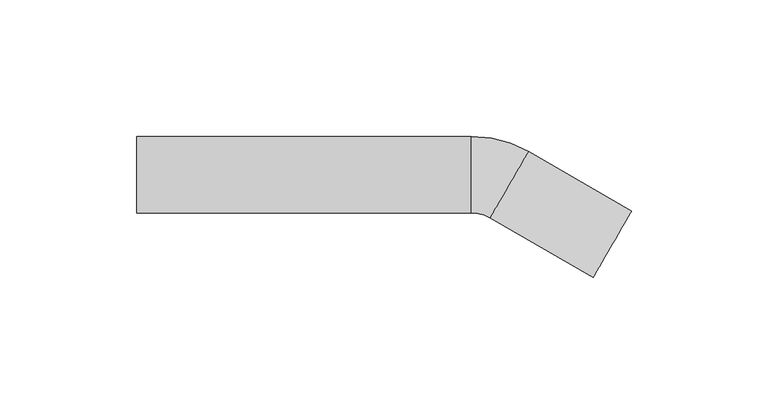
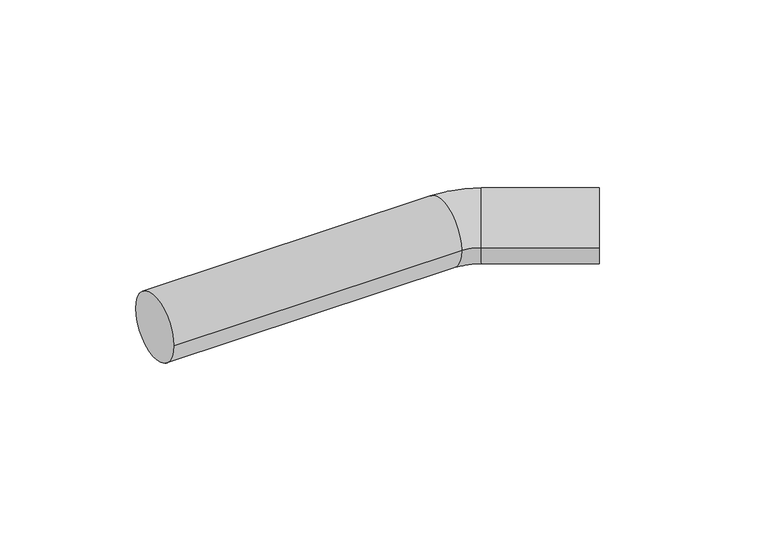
"""IFC4 building model written with IfcOpenShell, lengths in millimetres: pipe fitting geometry, KAN-therm Inox łuk 30 : KAN-therm Inox łuk 30."""

from ifc_helpers import new_model, si_unit, point, frame, origin, place, context, project, spatial, circle_curve, ellipse_curve, trimmed, source, transform, mapped, element, save
from ifc_brep_helpers import plane_surface, cylinder_surface, revolved_surface, advanced_brep


def pipe_fitting_d68aeb2b(model_context):
    return source(origin(), model_context, "Body", "AdvancedBrep", [
        advanced_brep(
        [(181.1672956, -13.3756443, 0.0), (167.1672956, -37.6243557, 0.0), (143.4974226, 8.373067, 0.0), (129.4974226, -15.8756443, 0.0), (122.4974226, -14.0, 0.0), (122.4974226, 14.0, 0.0), (0.0, 14.0, 0.0), (0.0, -14.0, 0.0)],
        [
            (0, 1, circle_curve(frame((174.1672956, -25.5, 0.0), z_axis=(0.866025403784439, -0.49999999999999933, 0.0), x_axis=(-0.49999999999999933, -0.866025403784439, 0.0)), 14.0)),
            (1, 0, circle_curve(frame((174.1672956, -25.5, 0.0), z_axis=(0.866025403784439, -0.49999999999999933, 0.0), x_axis=(-0.49999999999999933, -0.866025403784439, 0.0)), 14.0)),
            (0, 2),
            (2, 3, circle_curve(frame((136.4974226, -3.7512887, 0.0), z_axis=(0.866025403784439, -0.49999999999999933, 0.0), x_axis=(-0.49999999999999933, -0.866025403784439, 0.0)), 14.0)),
            (3, 1),
            (3, 2, circle_curve(frame((136.4974226, -3.7512887, 0.0), z_axis=(0.866025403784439, -0.49999999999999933, 0.0), x_axis=(-0.49999999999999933, -0.866025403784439, 0.0)), 14.0)),
            (4, 3, circle_curve(frame((122.4974226, -28.0, 0.0), z_axis=(0.0, 0.0, -1.0), x_axis=(0.49999999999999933, 0.866025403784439, 0.0)), 14.0)),
            (2, 5, circle_curve(frame((122.4974226, -28.0, 0.0), z_axis=(0.0, 0.0, 1.0), x_axis=(0.49999999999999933, 0.866025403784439, 0.0)), 42.0)),
            (5, 4, circle_curve(frame((122.4974226, 0.0, 0.0), z_axis=(1.0, 0.0, 0.0), x_axis=(0.0, -1.0, 0.0)), 14.0)),
            (4, 5, circle_curve(frame((122.4974226, 0.0, 0.0), z_axis=(1.0, 0.0, 0.0), x_axis=(0.0, -1.0, 0.0)), 14.0)),
            (6, 7, circle_curve(frame((0.0, 0.0, 0.0), z_axis=(-1.0, 0.0, 0.0), x_axis=(0.0, -1.0, 0.0)), 14.0)),
            (7, 6, circle_curve(frame((0.0, 0.0, 0.0), z_axis=(-1.0, 0.0, 0.0), x_axis=(0.0, -1.0, 0.0)), 14.0)),
            (5, 6),
            (7, 4),
        ],
        [
            plane_surface(frame((174.1672956, -25.5, 0.0), z_axis=(0.866025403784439, -0.49999999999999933, 0.0), x_axis=(0.0, 0.0, 1.0))),
            cylinder_surface(frame((174.1672956, -25.5, 0.0), z_axis=(0.866025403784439, -0.49999999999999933, 0.0), x_axis=(-0.49999999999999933, -0.866025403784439, 0.0)), 14.0),
            revolved_surface(trimmed(ellipse_curve(frame((136.4974226, -3.7512887, 0.0), z_axis=(0.8660254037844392, -0.49999999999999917, 0.0), x_axis=(-0.49999999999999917, -0.8660254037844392, 0.0)), 14.0, 14.0), [point((143.4974226, 8.373067, 0.0))], [point((129.4974226, -15.8756443, 0.0))], True, "CARTESIAN"), (122.4974226, -28.0, 0.0), (0.0, 0.0, 1.0)),
            revolved_surface(trimmed(ellipse_curve(frame((136.4974226, -3.7512887, 0.0), z_axis=(0.8660254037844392, -0.49999999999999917, 0.0), x_axis=(-0.49999999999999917, -0.8660254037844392, 0.0)), 14.0, 14.0), [point((129.4974226, -15.8756443, 0.0))], [point((143.4974226, 8.373067, 0.0))], True, "CARTESIAN"), (122.4974226, -28.0, 0.0), (0.0, 0.0, 1.0)),
            plane_surface(frame((0.0, 0.0, 0.0), z_axis=(-1.0, 0.0, 0.0), x_axis=(0.0, 0.0, 1.0))),
            cylinder_surface(frame((122.4974226, 0.0, 0.0), z_axis=(1.0, 0.0, 0.0), x_axis=(0.0, -1.0, 0.0)), 14.0),
        ],
        [
            (0, [[1, 2]]),
            (1, [[-1, 3, 4, 5]]),
            (1, [[-2, -5, 6, -3]]),
            (2, [[7, -4, 8, 9]]),
            (3, [[-8, -6, -7, 10]]),
            (4, [[11, 12]]),
            (5, [[-9, 13, -12, 14]]),
            (5, [[-10, -14, -11, -13]]),
        ],
    ),
    ])


if __name__ == "__main__":
    model = new_model("IFC4")
    model_context = context("Model", 3, world=origin())
    ifc_project = project(units=[si_unit("LENGTHUNIT", "METRE", prefix="MILLI")], contexts=[model_context])
    site = spatial("IfcSite", under=ifc_project)
    building = spatial("IfcBuilding", under=site)
    placement = place(None, origin())
    pipe_fitting_shape = pipe_fitting_d68aeb2b(model_context)
    element("IfcPipeFitting", 1, ObjectType="KAN-therm Inox łuk 30 : KAN-therm Inox łuk 30", at=placement, inside=building, context=model_context, shape_type="MappedRepresentation", body=[
        mapped(pipe_fitting_shape, transform((0.0, 0.0, 0.0), x_axis=(1.0, 0.0, 0.0), y_axis=(0.0, 1.0, 0.0), z_axis=(0.0, 0.0, 1.0))),
    ])
    save(model, "model.ifc")
